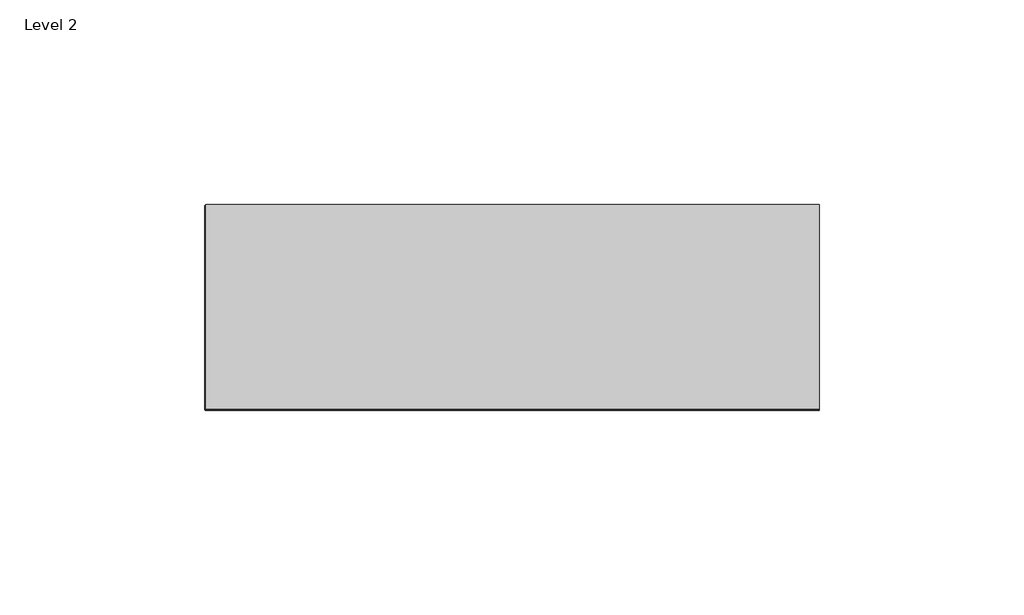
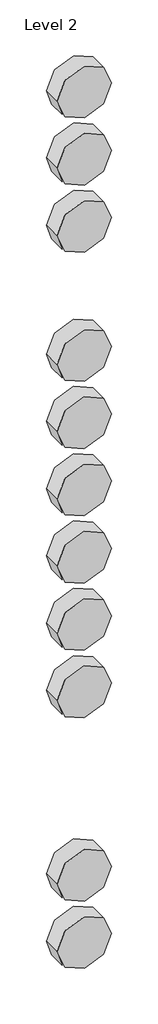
# One storey: 11 proxies.
"""IFC4 building model written with IfcOpenShell, lengths in millimetres."""

from ifc_helpers import new_model, si_unit, origin, place, context, project, spatial, transform, mapped, element, save
from components import materialmodel_materialmodel_17b3a4fc

model = new_model("IFC4")

# Units and contexts
model_context = context("Model", 3, world=origin())
ifc_project = project(units=[si_unit("LENGTHUNIT", "METRE", prefix="MILLI")], contexts=[model_context])

# Site, building, storey
site = spatial("IfcSite", under=ifc_project)
building = spatial("IfcBuilding", under=site)
storey = spatial("IfcBuildingStorey", under=building, Name="Level 2", Elevation=4000.0)

# Proxies
placement = place(None, origin())
materialmodel_materialmodel_shape = materialmodel_materialmodel_17b3a4fc(model_context)
element("IfcBuildingElementProxy", 1, Name="MaterialModel : MaterialModel", ObjectType="MaterialModel : MaterialModel", at=placement, inside=storey, context=model_context, shape_type="MappedRepresentation", body=[
    mapped(materialmodel_materialmodel_shape, transform((-5405.8506729, 2209.4764129, 1329.0627182), x_axis=(1.0, 0.0, 0.0), y_axis=(0.0, 1.0, 0.0), z_axis=(0.0, 0.0, 1.0))),
])
element("IfcBuildingElementProxy", 2, Name="MaterialModel : MaterialModel", ObjectType="MaterialModel : MaterialModel", at=placement, inside=storey, context=model_context, shape_type="MappedRepresentation", body=[
    mapped(materialmodel_materialmodel_shape, transform((-5405.8803809, 2209.4764129, 1134.0923111), x_axis=(1.0, 0.0, 0.0), y_axis=(0.0, 1.0, 0.0), z_axis=(0.0, 0.0, 1.0))),
])
element("IfcBuildingElementProxy", 3, Name="MaterialModel : MaterialModel", ObjectType="MaterialModel : MaterialModel", at=placement, inside=storey, context=model_context, shape_type="MappedRepresentation", body=[
    mapped(materialmodel_materialmodel_shape, transform((-5405.9100889, 2209.4764129, 939.1219041), x_axis=(1.0, 0.0, 0.0), y_axis=(0.0, 1.0, 0.0), z_axis=(0.0, 0.0, 1.0))),
])
element("IfcBuildingElementProxy", 4, Name="MaterialModel : MaterialModel", ObjectType="MaterialModel : MaterialModel", at=placement, inside=storey, context=model_context, shape_type="MappedRepresentation", body=[
    mapped(materialmodel_materialmodel_shape, transform((-5405.9397969, 2209.4764129, -940.848503), x_axis=(1.0, 0.0, 0.0), y_axis=(0.0, 1.0, 0.0), z_axis=(0.0, 0.0, 1.0))),
])
element("IfcBuildingElementProxy", 5, Name="MaterialModel : MaterialModel", ObjectType="MaterialModel : MaterialModel", at=placement, inside=storey, context=model_context, shape_type="MappedRepresentation", body=[
    mapped(materialmodel_materialmodel_shape, transform((-5406.0289209, 2209.4764129, 370.4994616), x_axis=(1.0, 0.0, 0.0), y_axis=(0.0, 1.0, 0.0), z_axis=(0.0, 0.0, 1.0))),
])
element("IfcBuildingElementProxy", 6, Name="MaterialModel : MaterialModel", ObjectType="MaterialModel : MaterialModel", at=placement, inside=storey, context=model_context, shape_type="MappedRepresentation", body=[
    mapped(materialmodel_materialmodel_shape, transform((-5405.9695049, 2209.4764129, -1135.8189101), x_axis=(1.0, 0.0, 0.0), y_axis=(0.0, 1.0, 0.0), z_axis=(0.0, 0.0, 1.0))),
])
element("IfcBuildingElementProxy", 7, Name="MaterialModel : MaterialModel", ObjectType="MaterialModel : MaterialModel", at=placement, inside=storey, context=model_context, shape_type="MappedRepresentation", body=[
    mapped(materialmodel_materialmodel_shape, transform((-5405.9992129, 2209.4764129, 565.4698687), x_axis=(1.0, 0.0, 0.0), y_axis=(0.0, 1.0, 0.0), z_axis=(0.0, 0.0, 1.0))),
])
element("IfcBuildingElementProxy", 8, Name="MaterialModel : MaterialModel", ObjectType="MaterialModel : MaterialModel", at=placement, inside=storey, context=model_context, shape_type="MappedRepresentation", body=[
    mapped(materialmodel_materialmodel_shape, transform((-5406.0586289, 2209.4764129, 175.5290545), x_axis=(1.0, 0.0, 0.0), y_axis=(0.0, 1.0, 0.0), z_axis=(0.0, 0.0, 1.0))),
])
element("IfcBuildingElementProxy", 9, Name="MaterialModel : MaterialModel", ObjectType="MaterialModel : MaterialModel", at=placement, inside=storey, context=model_context, shape_type="MappedRepresentation", body=[
    mapped(materialmodel_materialmodel_shape, transform((-5406.0883369, 2209.4764129, -19.4413526), x_axis=(1.0, 0.0, 0.0), y_axis=(0.0, 1.0, 0.0), z_axis=(0.0, 0.0, 1.0))),
])
element("IfcBuildingElementProxy", 10, Name="MaterialModel : MaterialModel", ObjectType="MaterialModel : MaterialModel", at=placement, inside=storey, context=model_context, shape_type="MappedRepresentation", body=[
    mapped(materialmodel_materialmodel_shape, transform((-5406.1180449, 2209.4764129, -214.4117596), x_axis=(1.0, 0.0, 0.0), y_axis=(0.0, 1.0, 0.0), z_axis=(0.0, 0.0, 1.0))),
])
element("IfcBuildingElementProxy", 11, Name="MaterialModel : MaterialModel", ObjectType="MaterialModel : MaterialModel", at=placement, inside=storey, context=model_context, shape_type="MappedRepresentation", body=[
    mapped(materialmodel_materialmodel_shape, transform((-5406.1772651, 2209.4764129, -409.3823409), x_axis=(1.0, 0.0, 0.0), y_axis=(0.0, 1.0, 0.0), z_axis=(0.0, 0.0, 1.0))),
])

save(model, "model.ifc")
